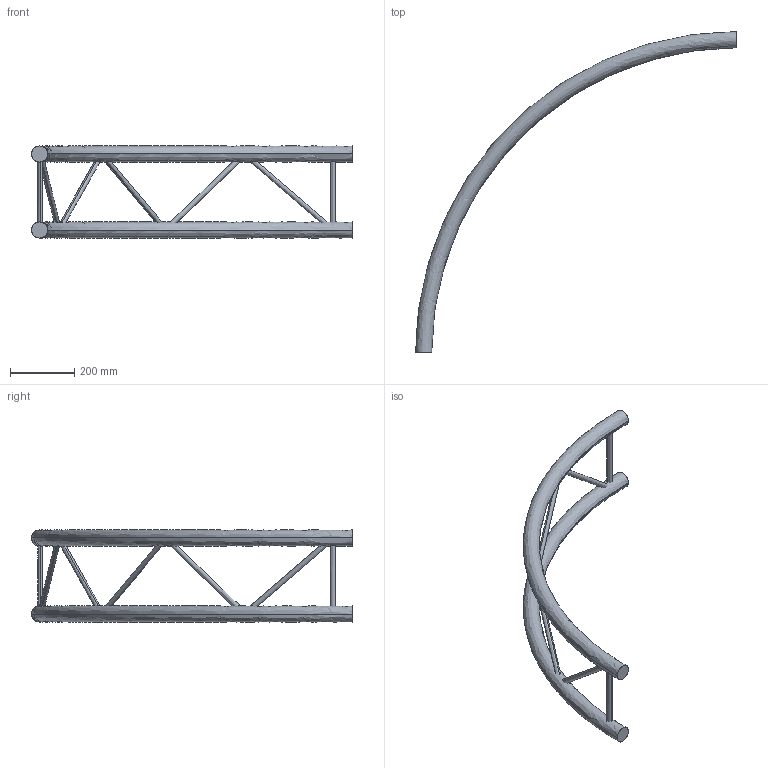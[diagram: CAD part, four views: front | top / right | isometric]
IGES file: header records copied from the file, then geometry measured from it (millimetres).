
Start section: SolidWorks IGES file using analytic representation for surfaces
Global section: file name: K:\BIBLIO\asd_biblio\EX290\Cercles\EXC290V\EXC29200V\EXC29200V.IGS; native system: SolidWorks 2009; preprocessor: SolidWorks 2009; author: des3; date: 091026.103004; units: millimetre
Bounding box: 1000 x 1000 x 287 mm (x, y, z)
Surface area: 591692.8 mm2 (no closed solid volume)
Topology: 0 solids, 0 shells, 29 faces, 1132 edges, 1132 vertices
Faces by surface type: bspline 15, revolution 14
